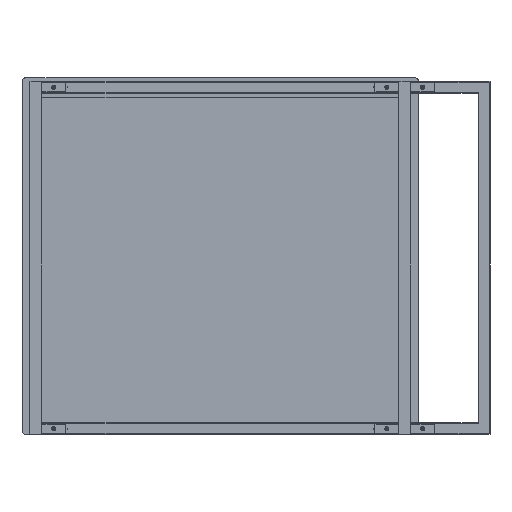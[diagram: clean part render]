
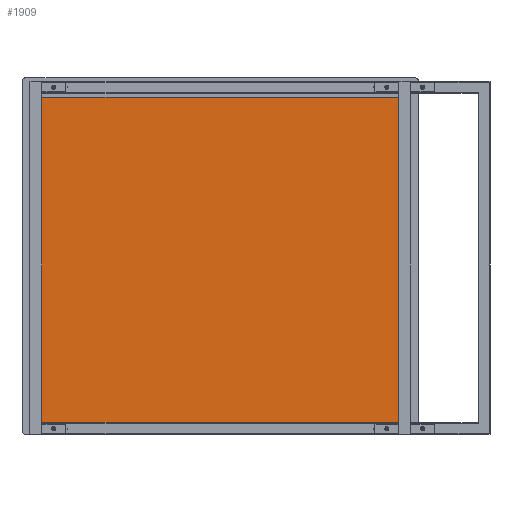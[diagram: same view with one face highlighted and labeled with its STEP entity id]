
A CAD part, front view. The second image highlights one B-rep face of the part: STEP entity #1909.
In plain terms, the highlighted planar face has unit normal (0, -1, 0).
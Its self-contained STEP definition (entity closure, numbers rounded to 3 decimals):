
#1909 = ADVANCED_FACE ( 'NONE', ( #7916 ), #15741, .T. ) ;
#2833 = CARTESIAN_POINT ( 'NONE',  ( -225., -125., -425. ) ) ;
#2870 = CARTESIAN_POINT ( 'NONE',  ( -225., -125., 0. ) ) ;
#3302 = EDGE_CURVE ( 'NONE', #22438, #8377, #32724, .T. ) ;
#4889 = VERTEX_POINT ( 'NONE', #2870 ) ;
#6518 = VECTOR ( 'NONE', #30638, 1000. ) ;
#7547 = CARTESIAN_POINT ( 'NONE',  ( -225., -125., 0. ) ) ;
#7916 = FACE_OUTER_BOUND ( 'NONE', #14534, .T. ) ;
#8377 = VERTEX_POINT ( 'NONE', #28721 ) ;
#10014 = CARTESIAN_POINT ( 'NONE',  ( -225., -125., -425. ) ) ;
#11864 = CARTESIAN_POINT ( 'NONE',  ( -225., -125., -425. ) ) ;
#12365 = VECTOR ( 'NONE', #17669, 1000. ) ;
#12868 = CARTESIAN_POINT ( 'NONE',  ( 225., -125., 0. ) ) ;
#12917 = CARTESIAN_POINT ( 'NONE',  ( -225., -125., -425. ) ) ;
#13200 = DIRECTION ( 'NONE',  ( 0., -1., 0. ) ) ;
#13972 = ORIENTED_EDGE ( 'NONE', *, *, #3302, .T. ) ;
#14534 = EDGE_LOOP ( 'NONE', ( #24391, #22649, #13972, #25550 ) ) ;
#15370 = DIRECTION ( 'NONE',  ( 1., 0., 0. ) ) ;
#15741 = PLANE ( 'NONE',  #24506 ) ;
#16222 = EDGE_CURVE ( 'NONE', #4889, #25464, #20651, .T. ) ;
#17669 = DIRECTION ( 'NONE',  ( 0., 0., 1. ) ) ;
#18346 = EDGE_CURVE ( 'NONE', #22438, #4889, #27733, .T. ) ;
#20307 = LINE ( 'NONE', #26252, #23867 ) ;
#20589 = VECTOR ( 'NONE', #15370, 1000. ) ;
#20651 = LINE ( 'NONE', #7547, #20589 ) ;
#22438 = VERTEX_POINT ( 'NONE', #11864 ) ;
#22649 = ORIENTED_EDGE ( 'NONE', *, *, #18346, .F. ) ;
#23374 = DIRECTION ( 'NONE',  ( 0., 0., 1. ) ) ;
#23867 = VECTOR ( 'NONE', #23374, 1000. ) ;
#24391 = ORIENTED_EDGE ( 'NONE', *, *, #16222, .F. ) ;
#24506 = AXIS2_PLACEMENT_3D ( 'NONE', #2833, #13200, #25795 ) ;
#25464 = VERTEX_POINT ( 'NONE', #12868 ) ;
#25550 = ORIENTED_EDGE ( 'NONE', *, *, #26649, .T. ) ;
#25795 = DIRECTION ( 'NONE',  ( 0., 0., -1. ) ) ;
#26252 = CARTESIAN_POINT ( 'NONE',  ( 225., -125., -425. ) ) ;
#26649 = EDGE_CURVE ( 'NONE', #8377, #25464, #20307, .T. ) ;
#27733 = LINE ( 'NONE', #10014, #12365 ) ;
#28721 = CARTESIAN_POINT ( 'NONE',  ( 225., -125., -425. ) ) ;
#30638 = DIRECTION ( 'NONE',  ( 1., 0., 0. ) ) ;
#32724 = LINE ( 'NONE', #12917, #6518 ) ;
